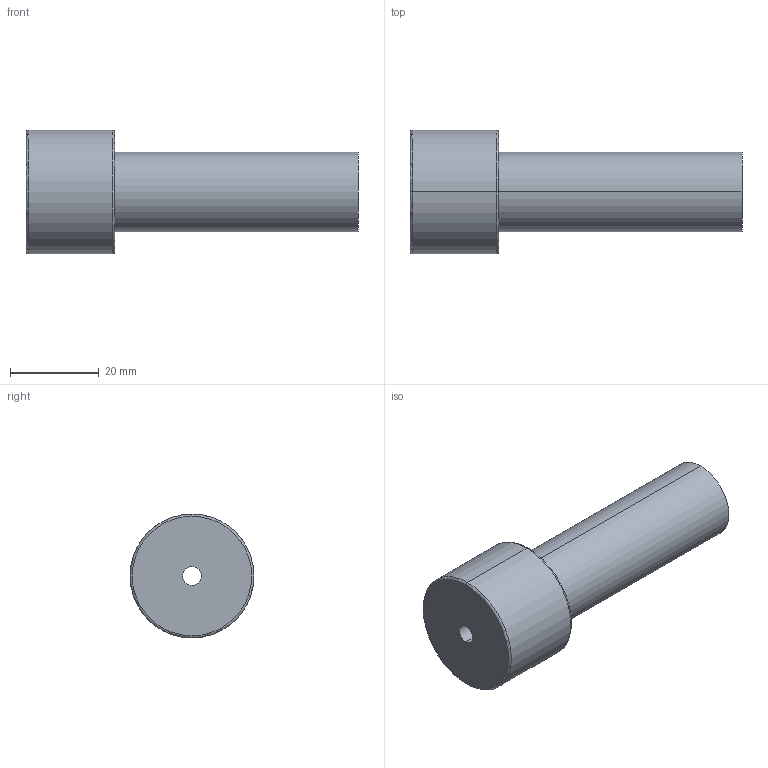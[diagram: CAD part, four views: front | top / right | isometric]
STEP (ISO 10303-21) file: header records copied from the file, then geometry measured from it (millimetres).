
FILE_DESCRIPTION(('CATIA V5 STEP Exchange'),'2;1');
FILE_NAME('C:\Users\Utente\Desktop\IO LAVORO\3D X SITO CF\X SITO\PLASTICA\3D files 367\367F-18X75.stp','2021-03-24T16:16:33+00:00',('none'),('none'),'CATIA Version 5 Release 20 GA (IN-10)','CATIA V5 STEP AP203','none');
FILE_SCHEMA(('CONFIG_CONTROL_DESIGN'));
Length unit declared in the file: millimetre
Products named in the file (1): 367F-18X75
Bounding box: 75 x 28 x 28 mm (x, y, z)
Volume: 23914.5 mm3; surface area: 7471.7 mm2
Topology: 1 solids, 1 shells, 13 faces, 42 edges, 32 vertices
Faces by surface type: torus 4, cylinder 4, plane 3, cone 2
Entity records: 614 total; most frequent: CARTESIAN_POINT 200, ORIENTED_EDGE 84, DIRECTION 60, AXIS2_PLACEMENT_3D 42, EDGE_CURVE 42, VERTEX_POINT 32, CIRCLE 28, EDGE_LOOP 16
